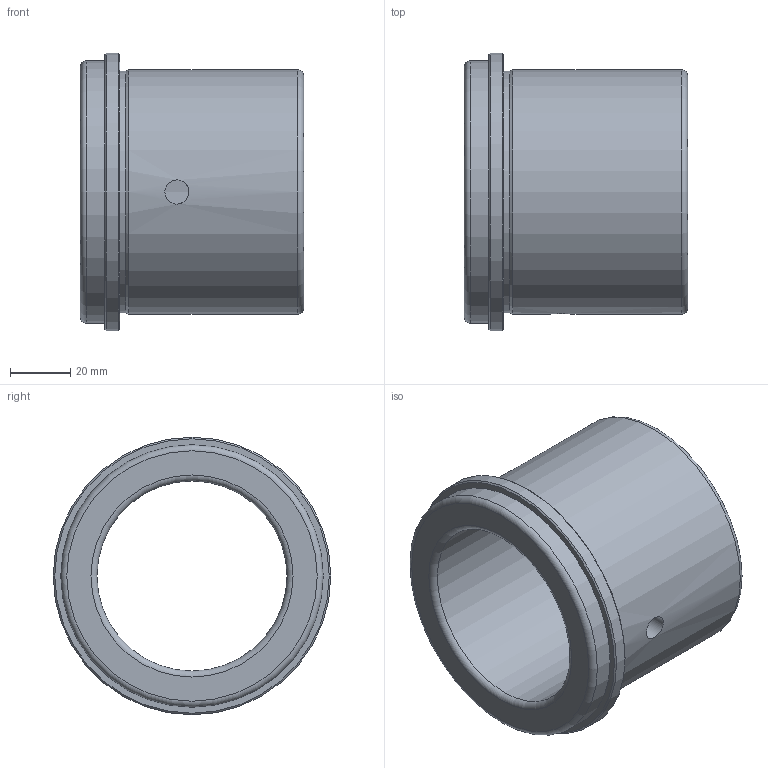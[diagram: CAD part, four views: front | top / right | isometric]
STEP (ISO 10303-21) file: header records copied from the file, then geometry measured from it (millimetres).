
FILE_DESCRIPTION(/* description */ ('Impex Ready, www.impex-ready.pl'),/* implementation_level */ '2;1');
FILE_NAME(/* name */ 'C:\Users\VIKKY\Nextcloud\SM\projekt 10 - części na stronę internetową\Pliki_3D_new\294 Tuleje BE\294_Tuleje_BE_STEP\BE63C.ipt.step',/* time_stamp */ '2021-12-17T14:06:37+01:00',/* author */ ('SM'),/* organization */ (''),/* preprocessor_version */ 'ST-DEVELOPER v18.1',/* originating_system */ 'Autodesk Inventor 2021',/* authorisation */ '');
FILE_SCHEMA (('AUTOMOTIVE_DESIGN { 1 0 10303 214 3 1 1 }'));
Length unit declared in the file: millimetre
Products named in the file (1): BE63C
Bounding box: 74 x 92 x 92 mm (x, y, z)
Volume: 162818.5 mm3; surface area: 40173.1 mm2
Topology: 1 solids, 1 shells, 17 faces, 40 edges, 25 vertices
Faces by surface type: cylinder 6, torus 4, plane 4, cone 3
Full cylindrical faces by diameter (mm): 8 x1, 63 x1, 80 x1, 81 x1, 87 x1, 92 x1
Entity records: 642 total; most frequent: CARTESIAN_POINT 153, DIRECTION 95, ORIENTED_EDGE 80, AXIS2_PLACEMENT_3D 42, EDGE_CURVE 40, VERTEX_POINT 25, CIRCLE 24, EDGE_LOOP 21
